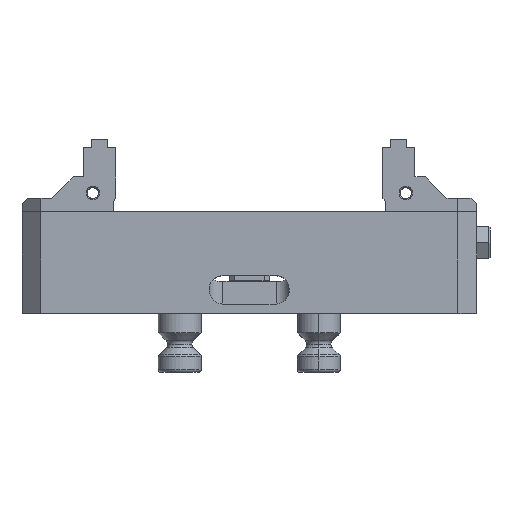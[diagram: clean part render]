
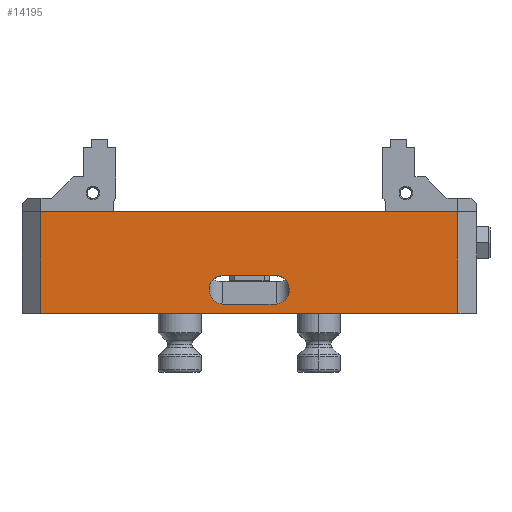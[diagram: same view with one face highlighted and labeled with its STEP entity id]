
A CAD part, top view. The second image highlights one B-rep face of the part: STEP entity #14195.
In plain terms, the highlighted planar face has unit normal (0, 0, 1).
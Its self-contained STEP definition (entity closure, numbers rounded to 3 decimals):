
#152 = EDGE_CURVE ( 'NONE', #5617, #5588, #5624, .T. ) ;
#312 = FACE_BOUND ( 'NONE', #8768, .T. ) ;
#769 = CARTESIAN_POINT ( 'NONE',  ( 10., 3.487, 38.5 ) ) ;
#901 = DIRECTION ( 'NONE',  ( -1., 0., 0. ) ) ;
#944 = VECTOR ( 'NONE', #2620, 1000. ) ;
#967 = AXIS2_PLACEMENT_3D ( 'NONE', #7761, #10011, #4509 ) ;
#1074 = CARTESIAN_POINT ( 'NONE',  ( -10., 3.487, 38.5 ) ) ;
#1132 = ORIENTED_EDGE ( 'NONE', *, *, #14039, .T. ) ;
#1205 = ORIENTED_EDGE ( 'NONE', *, *, #152, .F. ) ;
#1373 = CARTESIAN_POINT ( 'NONE',  ( 12.929, 14.129, 38.5 ) ) ;
#1417 = EDGE_CURVE ( 'NONE', #10684, #8742, #10198, .T. ) ;
#1419 = CARTESIAN_POINT ( 'NONE',  ( 10., 14.129, 38.5 ) ) ;
#1458 = ORIENTED_EDGE ( 'NONE', *, *, #7152, .F. ) ;
#1686 = CARTESIAN_POINT ( 'NONE',  ( 10., 3.487, 38.5 ) ) ;
#1709 = CARTESIAN_POINT ( 'NONE',  ( -10., 3.487, 38.5 ) ) ;
#1842 = LINE ( 'NONE', #9245, #11257 ) ;
#1908 = CARTESIAN_POINT ( 'NONE',  ( -15., 8.808, 38.5 ) ) ;
#1926 = ORIENTED_EDGE ( 'NONE', *, *, #4783, .T. ) ;
#2227 = FACE_OUTER_BOUND ( 'NONE', #5399, .T. ) ;
#2482 = EDGE_CURVE ( 'NONE', #5086, #10684, #11989, .T. ) ;
#2620 = DIRECTION ( 'NONE',  ( 0., 1., 0. ) ) ;
#2846 = VERTEX_POINT ( 'NONE', #3846 ) ;
#2965 = EDGE_CURVE ( 'NONE', #5086, #2846, #12595, .T. ) ;
#3041 = VERTEX_POINT ( 'NONE', #769 ) ;
#3437 = EDGE_CURVE ( 'NONE', #5519, #3041, #7141, .T. ) ;
#3588 = CARTESIAN_POINT ( 'NONE',  ( 15., 11.925, 38.5 ) ) ;
#3742 = CARTESIAN_POINT ( 'NONE',  ( -15., 11.925, 38.5 ) ) ;
#3805 = ORIENTED_EDGE ( 'NONE', *, *, #2965, .F. ) ;
#3846 = CARTESIAN_POINT ( 'NONE',  ( -78., 0., 38.5 ) ) ;
#3888 = CARTESIAN_POINT ( 'NONE',  ( 15., 8.808, 38.5 ) ) ;
#3938 = DIRECTION ( 'NONE',  ( -1., 0., 0. ) ) ;
#3947 = VERTEX_POINT ( 'NONE', #1074 ) ;
#4125 = ORIENTED_EDGE ( 'NONE', *, *, #3437, .T. ) ;
#4387 = VECTOR ( 'NONE', #901, 1000. ) ;
#4509 = DIRECTION ( 'NONE',  ( 0., -1., 0. ) ) ;
#4593 =( BOUNDED_CURVE ( )  B_SPLINE_CURVE ( 3, ( #4812, #3742, #8238, #9359 ),
 .UNSPECIFIED., .F., .T. ) 
 B_SPLINE_CURVE_WITH_KNOTS ( ( 4, 4 ),
 ( 4.712, 6.283 ),
 .UNSPECIFIED. ) 
 CURVE ( )  GEOMETRIC_REPRESENTATION_ITEM ( )  RATIONAL_B_SPLINE_CURVE ( ( 1., 0.805, 0.805, 1. ) ) 
 REPRESENTATION_ITEM ( '' )  );
#4783 = EDGE_CURVE ( 'NONE', #11985, #5588, #4593, .T. ) ;
#4785 = CARTESIAN_POINT ( 'NONE',  ( 85., 14.129, 38.5 ) ) ;
#4812 = CARTESIAN_POINT ( 'NONE',  ( -15., 8.808, 38.5 ) ) ;
#5086 = VERTEX_POINT ( 'NONE', #7132 ) ;
#5234 = CARTESIAN_POINT ( 'NONE',  ( -15., 5.691, 38.5 ) ) ;
#5399 = EDGE_LOOP ( 'NONE', ( #6424, #1132, #3805, #11686 ) ) ;
#5519 = VERTEX_POINT ( 'NONE', #3888 ) ;
#5575 = CARTESIAN_POINT ( 'NONE',  ( 78., 38., 38.5 ) ) ;
#5588 = VERTEX_POINT ( 'NONE', #11724 ) ;
#5617 = VERTEX_POINT ( 'NONE', #11967 ) ;
#5624 = LINE ( 'NONE', #4785, #11415 ) ;
#6010 = DIRECTION ( 'NONE',  ( -1., 0., 0. ) ) ;
#6158 = CARTESIAN_POINT ( 'NONE',  ( 12.929, 3.487, 38.5 ) ) ;
#6288 = CARTESIAN_POINT ( 'NONE',  ( 85., 0., 38.5 ) ) ;
#6373 = CARTESIAN_POINT ( 'NONE',  ( 85., 38., 38.5 ) ) ;
#6424 = ORIENTED_EDGE ( 'NONE', *, *, #1417, .T. ) ;
#6502 =( BOUNDED_CURVE ( )  B_SPLINE_CURVE ( 3, ( #1709, #8194, #5234, #1908 ),
 .UNSPECIFIED., .F., .F. ) 
 B_SPLINE_CURVE_WITH_KNOTS ( ( 4, 4 ),
 ( 0., 1.571 ),
 .UNSPECIFIED. ) 
 CURVE ( )  GEOMETRIC_REPRESENTATION_ITEM ( )  RATIONAL_B_SPLINE_CURVE ( ( 1., 0.805, 0.805, 1. ) ) 
 REPRESENTATION_ITEM ( '' )  );
#7132 = CARTESIAN_POINT ( 'NONE',  ( 78., 0., 38.5 ) ) ;
#7141 =( BOUNDED_CURVE ( )  B_SPLINE_CURVE ( 3, ( #7294, #11815, #6158, #1686 ),
 .UNSPECIFIED., .F., .T. ) 
 B_SPLINE_CURVE_WITH_KNOTS ( ( 4, 4 ),
 ( 1.571, 3.142 ),
 .UNSPECIFIED. ) 
 CURVE ( )  GEOMETRIC_REPRESENTATION_ITEM ( )  RATIONAL_B_SPLINE_CURVE ( ( 1., 0.805, 0.805, 1. ) ) 
 REPRESENTATION_ITEM ( '' )  );
#7152 = EDGE_CURVE ( 'NONE', #3947, #3041, #1842, .T. ) ;
#7294 = CARTESIAN_POINT ( 'NONE',  ( 15., 8.808, 38.5 ) ) ;
#7469 = LINE ( 'NONE', #7817, #11326 ) ;
#7494 =( BOUNDED_CURVE ( )  B_SPLINE_CURVE ( 3, ( #1419, #1373, #3588, #10196 ),
 .UNSPECIFIED., .F., .F. ) 
 B_SPLINE_CURVE_WITH_KNOTS ( ( 4, 4 ),
 ( 3.142, 4.712 ),
 .UNSPECIFIED. ) 
 CURVE ( )  GEOMETRIC_REPRESENTATION_ITEM ( )  RATIONAL_B_SPLINE_CURVE ( ( 1., 0.805, 0.805, 1. ) ) 
 REPRESENTATION_ITEM ( '' )  );
#7657 = CARTESIAN_POINT ( 'NONE',  ( -15., 8.808, 38.5 ) ) ;
#7761 = CARTESIAN_POINT ( 'NONE',  ( 85., 0., 38.5 ) ) ;
#7817 = CARTESIAN_POINT ( 'NONE',  ( -78., 0., 38.5 ) ) ;
#7865 = DIRECTION ( 'NONE',  ( 0., -1., 0. ) ) ;
#8194 = CARTESIAN_POINT ( 'NONE',  ( -12.929, 3.487, 38.5 ) ) ;
#8238 = CARTESIAN_POINT ( 'NONE',  ( -12.929, 14.129, 38.5 ) ) ;
#8389 = CARTESIAN_POINT ( 'NONE',  ( -78., 38., 38.5 ) ) ;
#8742 = VERTEX_POINT ( 'NONE', #8389 ) ;
#8768 = EDGE_LOOP ( 'NONE', ( #1458, #10772, #1926, #1205, #10104, #4125 ) ) ;
#8888 = VECTOR ( 'NONE', #3938, 1000. ) ;
#9151 = CARTESIAN_POINT ( 'NONE',  ( 78., 38., 38.5 ) ) ;
#9194 = EDGE_CURVE ( 'NONE', #5617, #5519, #7494, .T. ) ;
#9245 = CARTESIAN_POINT ( 'NONE',  ( 85., 3.487, 38.5 ) ) ;
#9359 = CARTESIAN_POINT ( 'NONE',  ( -10., 14.129, 38.5 ) ) ;
#10011 = DIRECTION ( 'NONE',  ( 0., 0., -1. ) ) ;
#10104 = ORIENTED_EDGE ( 'NONE', *, *, #9194, .T. ) ;
#10159 = PLANE ( 'NONE',  #967 ) ;
#10196 = CARTESIAN_POINT ( 'NONE',  ( 15., 8.808, 38.5 ) ) ;
#10198 = LINE ( 'NONE', #6373, #4387 ) ;
#10684 = VERTEX_POINT ( 'NONE', #5575 ) ;
#10772 = ORIENTED_EDGE ( 'NONE', *, *, #10969, .T. ) ;
#10969 = EDGE_CURVE ( 'NONE', #3947, #11985, #6502, .T. ) ;
#11257 = VECTOR ( 'NONE', #11396, 1000. ) ;
#11326 = VECTOR ( 'NONE', #7865, 1000. ) ;
#11396 = DIRECTION ( 'NONE',  ( 1., 0., 0. ) ) ;
#11415 = VECTOR ( 'NONE', #6010, 1000. ) ;
#11686 = ORIENTED_EDGE ( 'NONE', *, *, #2482, .T. ) ;
#11724 = CARTESIAN_POINT ( 'NONE',  ( -10., 14.129, 38.5 ) ) ;
#11815 = CARTESIAN_POINT ( 'NONE',  ( 15., 5.691, 38.5 ) ) ;
#11967 = CARTESIAN_POINT ( 'NONE',  ( 10., 14.129, 38.5 ) ) ;
#11985 = VERTEX_POINT ( 'NONE', #7657 ) ;
#11989 = LINE ( 'NONE', #9151, #944 ) ;
#12595 = LINE ( 'NONE', #6288, #8888 ) ;
#14039 = EDGE_CURVE ( 'NONE', #8742, #2846, #7469, .T. ) ;
#14195 = ADVANCED_FACE ( 'NONE', ( #2227, #312 ), #10159, .F. ) ;
